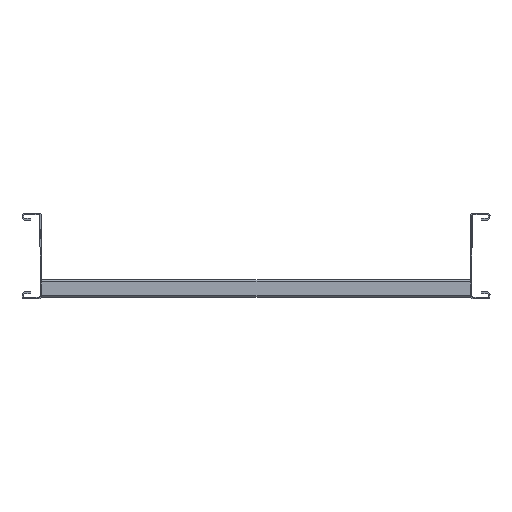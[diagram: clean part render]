
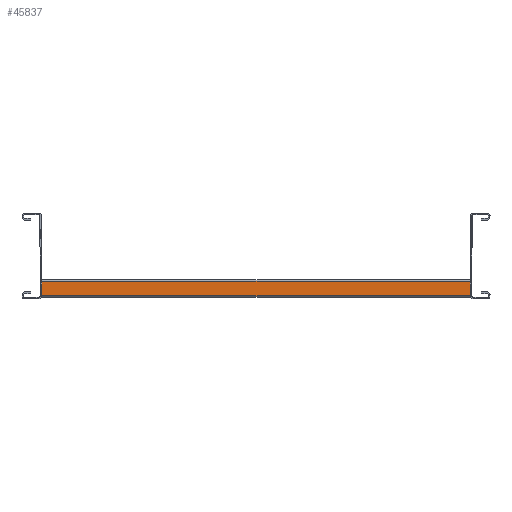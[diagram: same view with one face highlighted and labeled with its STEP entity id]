
A CAD part, left-side view. The second image highlights one B-rep face of the part: STEP entity #45837.
In plain terms, the highlighted planar face has unit normal (-1, 0, 0) as drawn and (0, 1, 0) by its records, which use the part's own axes.
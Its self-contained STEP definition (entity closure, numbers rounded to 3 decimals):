
#3203=FACE_OUTER_BOUND('',#6311,.T.);
#6311=EDGE_LOOP('',(#41404,#41405,#41406,#41407));
#12461=LINE('',#70646,#18581);
#12467=LINE('',#70663,#18587);
#12588=LINE('',#71108,#18708);
#12589=LINE('',#71110,#18709);
#18581=VECTOR('',#58136,304.8);
#18587=VECTOR('',#58148,304.8);
#18708=VECTOR('',#58497,304.8);
#18709=VECTOR('',#58500,304.8);
#22776=VERTEX_POINT('',#70643);
#22777=VERTEX_POINT('',#70645);
#22784=VERTEX_POINT('',#70660);
#22785=VERTEX_POINT('',#70662);
#28936=EDGE_CURVE('',#22776,#22777,#12461,.T.);
#28944=EDGE_CURVE('',#22784,#22785,#12467,.T.);
#29168=EDGE_CURVE('',#22785,#22776,#12588,.T.);
#29169=EDGE_CURVE('',#22784,#22777,#12589,.T.);
#41404=ORIENTED_EDGE('',*,*,#28936,.F.);
#41405=ORIENTED_EDGE('',*,*,#29168,.F.);
#41406=ORIENTED_EDGE('',*,*,#28944,.F.);
#41407=ORIENTED_EDGE('',*,*,#29169,.T.);
#43790=PLANE('',#48098);
#45837=ADVANCED_FACE('',(#3203),#43790,.T.);
#48098=AXIS2_PLACEMENT_3D('',#71109,#58498,#58499);
#58136=DIRECTION('',(0.,0.,-1.));
#58148=DIRECTION('',(0.,0.,1.));
#58497=DIRECTION('',(-1.,0.,0.));
#58498=DIRECTION('center_axis',(0.,1.,0.));
#58499=DIRECTION('ref_axis',(1.,0.,0.));
#58500=DIRECTION('',(-1.,0.,0.));
#70643=CARTESIAN_POINT('',(0.,20.,8.5));
#70645=CARTESIAN_POINT('',(0.,20.,-8.5));
#70646=CARTESIAN_POINT('',(0.,20.,8.5));
#70660=CARTESIAN_POINT('',(500.,20.,-8.5));
#70662=CARTESIAN_POINT('',(500.,20.,8.5));
#70663=CARTESIAN_POINT('',(500.,20.,-8.5));
#71108=CARTESIAN_POINT('',(0.,20.,8.5));
#71109=CARTESIAN_POINT('Origin',(0.,20.,8.5));
#71110=CARTESIAN_POINT('',(0.,20.,-8.5));
